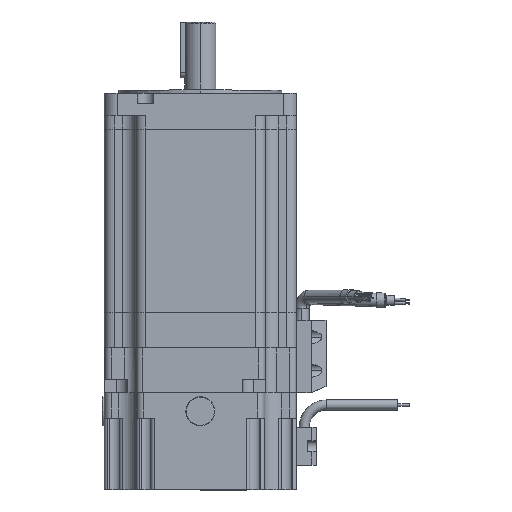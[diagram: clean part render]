
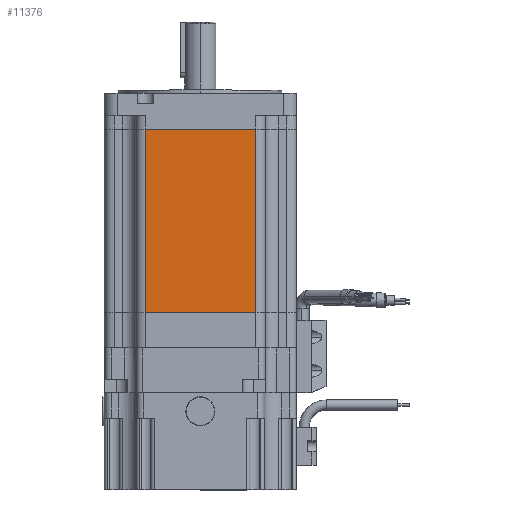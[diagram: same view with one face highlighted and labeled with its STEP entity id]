
A CAD part, top view. The second image highlights one B-rep face of the part: STEP entity #11376.
In plain terms, the highlighted planar face has unit normal (0, 0, 1).
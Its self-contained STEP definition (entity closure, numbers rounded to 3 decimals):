
#476 = VECTOR ( 'NONE', #10190, 1000. ) ;
#1250 = DIRECTION ( 'NONE',  ( 0., 1., 0. ) ) ;
#1361 = CARTESIAN_POINT ( 'NONE',  ( 24.65, -6.008, 43. ) ) ;
#1489 = CARTESIAN_POINT ( 'NONE',  ( -24.65, -6.008, 43. ) ) ;
#4048 = CARTESIAN_POINT ( 'NONE',  ( 37.3, -87.992, 43. ) ) ;
#4123 = EDGE_CURVE ( 'NONE', #7324, #12996, #16262, .T. ) ;
#4177 = VERTEX_POINT ( 'NONE', #4219 ) ;
#4219 = CARTESIAN_POINT ( 'NONE',  ( 24.65, -87.992, 43. ) ) ;
#5271 = DIRECTION ( 'NONE',  ( 0., 0., -1. ) ) ;
#6646 = CARTESIAN_POINT ( 'NONE',  ( 24.65, -104., 43. ) ) ;
#6841 = DIRECTION ( 'NONE',  ( 0., 1., 0. ) ) ;
#7324 = VERTEX_POINT ( 'NONE', #14373 ) ;
#8110 = VERTEX_POINT ( 'NONE', #1361 ) ;
#8244 = CARTESIAN_POINT ( 'NONE',  ( 37.3, 10., 43. ) ) ;
#8696 = VECTOR ( 'NONE', #15357, 1000. ) ;
#9338 = LINE ( 'NONE', #16933, #8696 ) ;
#10190 = DIRECTION ( 'NONE',  ( -1., 0., 0. ) ) ;
#10355 = AXIS2_PLACEMENT_3D ( 'NONE', #8244, #5271, #18814 ) ;
#10489 = EDGE_CURVE ( 'NONE', #4177, #8110, #12476, .T. ) ;
#11215 = ORIENTED_EDGE ( 'NONE', *, *, #4123, .F. ) ;
#11376 = ADVANCED_FACE ( 'NONE', ( #15001 ), #15202, .F. ) ;
#12160 = EDGE_CURVE ( 'NONE', #4177, #7324, #15808, .T. ) ;
#12476 = LINE ( 'NONE', #6646, #14707 ) ;
#12728 = VECTOR ( 'NONE', #1250, 1000. ) ;
#12996 = VERTEX_POINT ( 'NONE', #1489 ) ;
#13315 = CARTESIAN_POINT ( 'NONE',  ( -24.65, -104., 43. ) ) ;
#13650 = ORIENTED_EDGE ( 'NONE', *, *, #18987, .F. ) ;
#14373 = CARTESIAN_POINT ( 'NONE',  ( -24.65, -87.992, 43. ) ) ;
#14707 = VECTOR ( 'NONE', #6841, 1000. ) ;
#15001 = FACE_OUTER_BOUND ( 'NONE', #19173, .T. ) ;
#15202 = PLANE ( 'NONE',  #10355 ) ;
#15357 = DIRECTION ( 'NONE',  ( 1., 0., 0. ) ) ;
#15808 = LINE ( 'NONE', #4048, #476 ) ;
#16262 = LINE ( 'NONE', #13315, #12728 ) ;
#16933 = CARTESIAN_POINT ( 'NONE',  ( 37.3, -6.008, 43. ) ) ;
#18046 = ORIENTED_EDGE ( 'NONE', *, *, #12160, .F. ) ;
#18814 = DIRECTION ( 'NONE',  ( -1., 0., 0. ) ) ;
#18987 = EDGE_CURVE ( 'NONE', #12996, #8110, #9338, .T. ) ;
#19173 = EDGE_LOOP ( 'NONE', ( #18046, #19432, #13650, #11215 ) ) ;
#19432 = ORIENTED_EDGE ( 'NONE', *, *, #10489, .T. ) ;
